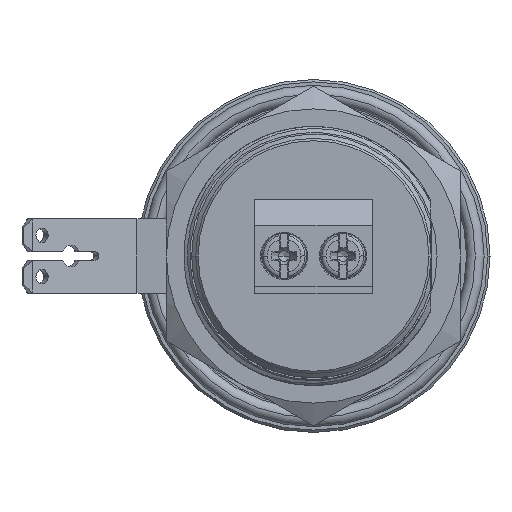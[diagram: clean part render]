
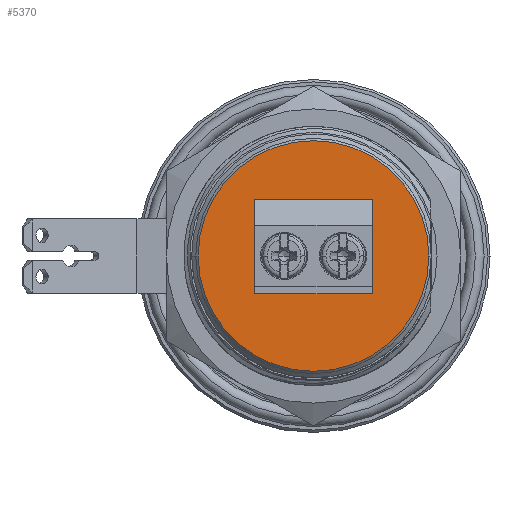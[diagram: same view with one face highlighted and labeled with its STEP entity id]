
A CAD part, front view. The second image highlights one B-rep face of the part: STEP entity #5370.
In plain terms, the highlighted planar face has unit normal (0, -1, 0).
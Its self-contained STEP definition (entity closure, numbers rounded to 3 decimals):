
#877=CARTESIAN_POINT('',(0.,-20.15,0.));
#878=DIRECTION('',(0.,1.,0.));
#879=DIRECTION('',(-1.,0.,0.));
#880=AXIS2_PLACEMENT_3D('',#877,#878,#879);
#882=CARTESIAN_POINT('',(0.,-20.15,0.));
#883=DIRECTION('',(0.,1.,0.));
#884=DIRECTION('',(1.,0.,0.));
#885=AXIS2_PLACEMENT_3D('',#882,#883,#884);
#887=CARTESIAN_POINT('',(0.,-20.15,0.));
#888=DIRECTION('',(0.,1.,0.));
#889=DIRECTION('',(0.,0.,-1.));
#890=AXIS2_PLACEMENT_3D('',#887,#888,#889);
#892=DIRECTION('',(-0.259,0.,0.966));
#893=VECTOR('',#892,0.58);
#894=CARTESIAN_POINT('',(2.15,-20.15,1.));
#895=LINE('',#894,#893);
#896=CARTESIAN_POINT('',(1.5,-20.15,4.3));
#897=DIRECTION('',(0.,-1.,0.));
#898=DIRECTION('',(1.,0.,0.));
#899=AXIS2_PLACEMENT_3D('',#896,#897,#898);
#901=CARTESIAN_POINT('',(-1.5,-20.15,4.3));
#902=DIRECTION('',(0.,-1.,0.));
#903=DIRECTION('',(0.,0.,1.));
#904=AXIS2_PLACEMENT_3D('',#901,#902,#903);
#906=DIRECTION('',(0.,0.,-1.));
#907=VECTOR('',#906,2.74);
#908=CARTESIAN_POINT('',(-2.,-20.15,4.3));
#909=LINE('',#908,#907);
#910=DIRECTION('',(-0.259,0.,-0.966));
#911=VECTOR('',#910,0.58);
#912=CARTESIAN_POINT('',(-2.,-20.15,1.56));
#913=LINE('',#912,#911);
#914=DIRECTION('',(-0.259,0.,0.966));
#915=VECTOR('',#914,0.58);
#916=CARTESIAN_POINT('',(-2.85,-20.15,1.));
#917=LINE('',#916,#915);
#918=CARTESIAN_POINT('',(-3.5,-20.15,4.3));
#919=DIRECTION('',(0.,-1.,0.));
#920=DIRECTION('',(1.,0.,0.));
#921=AXIS2_PLACEMENT_3D('',#918,#919,#920);
#923=CARTESIAN_POINT('',(3.5,-20.15,4.3));
#924=DIRECTION('',(0.,-1.,0.));
#925=DIRECTION('',(0.,0.,1.));
#926=AXIS2_PLACEMENT_3D('',#923,#924,#925);
#928=DIRECTION('',(-0.259,0.,-0.966));
#929=VECTOR('',#928,0.58);
#930=CARTESIAN_POINT('',(3.,-20.15,1.56));
#931=LINE('',#930,#929);
#2915=DIRECTION('',(1.,0.,0.));
#2916=VECTOR('',#2915,0.7);
#2917=CARTESIAN_POINT('',(2.15,-20.15,0.48));
#2918=LINE('',#2917,#2916);
#2919=DIRECTION('',(0.,0.,1.));
#2920=VECTOR('',#2919,0.52);
#2921=CARTESIAN_POINT('',(2.85,-20.15,0.48));
#2922=LINE('',#2921,#2920);
#3007=DIRECTION('',(0.,0.,-1.));
#3008=VECTOR('',#3007,0.52);
#3009=CARTESIAN_POINT('',(2.15,-20.15,1.));
#3010=LINE('',#3009,#3008);
#3019=DIRECTION('',(0.,0.,-1.));
#3020=VECTOR('',#3019,2.74);
#3021=CARTESIAN_POINT('',(2.,-20.15,4.3));
#3022=LINE('',#3021,#3020);
#3261=DIRECTION('',(0.,0.,1.));
#3262=VECTOR('',#3261,2.74);
#3263=CARTESIAN_POINT('',(3.,-20.15,1.56));
#3264=LINE('',#3263,#3262);
#3273=DIRECTION('',(1.,0.,0.));
#3274=VECTOR('',#3273,1.5);
#3275=CARTESIAN_POINT('',(3.5,-20.15,4.8));
#3276=LINE('',#3275,#3274);
#3277=DIRECTION('',(1.,0.,0.));
#3278=VECTOR('',#3277,1.5);
#3279=CARTESIAN_POINT('',(-5.,-20.15,4.8));
#3280=LINE('',#3279,#3278);
#3289=DIRECTION('',(1.,0.,0.));
#3290=VECTOR('',#3289,3.);
#3291=CARTESIAN_POINT('',(-1.5,-20.15,4.8));
#3292=LINE('',#3291,#3290);
#3297=DIRECTION('',(0.,0.,-1.));
#3298=VECTOR('',#3297,8.);
#3299=CARTESIAN_POINT('',(5.,-20.15,4.8));
#3300=LINE('',#3299,#3298);
#3309=DIRECTION('',(-1.,0.,0.));
#3310=VECTOR('',#3309,10.);
#3311=CARTESIAN_POINT('',(5.,-20.15,-3.2));
#3312=LINE('',#3311,#3310);
#3317=DIRECTION('',(0.,0.,1.));
#3318=VECTOR('',#3317,8.);
#3319=CARTESIAN_POINT('',(-5.,-20.15,-3.2));
#3320=LINE('',#3319,#3318);
#3569=DIRECTION('',(0.,0.,-1.));
#3570=VECTOR('',#3569,2.74);
#3571=CARTESIAN_POINT('',(-3.,-20.15,4.3));
#3572=LINE('',#3571,#3570);
#3585=DIRECTION('',(0.,0.,-1.));
#3586=VECTOR('',#3585,0.52);
#3587=CARTESIAN_POINT('',(-2.85,-20.15,1.));
#3588=LINE('',#3587,#3586);
#3637=DIRECTION('',(0.,0.,1.));
#3638=VECTOR('',#3637,0.52);
#3639=CARTESIAN_POINT('',(-2.15,-20.15,0.48));
#3640=LINE('',#3639,#3638);
#3685=DIRECTION('',(1.,0.,0.));
#3686=VECTOR('',#3685,0.7);
#3687=CARTESIAN_POINT('',(-2.85,-20.15,0.48));
#3688=LINE('',#3687,#3686);
#4429=CARTESIAN_POINT('',(-2.,-20.15,4.3));
#4430=CARTESIAN_POINT('',(-2.,-20.15,1.56));
#4431=VERTEX_POINT('',#4429);
#4432=VERTEX_POINT('',#4430);
#4435=CARTESIAN_POINT('',(-9.8,-20.15,0.));
#4436=CARTESIAN_POINT('',(9.8,-20.15,0.));
#4437=VERTEX_POINT('',#4435);
#4438=VERTEX_POINT('',#4436);
#4439=CARTESIAN_POINT('',(0.,-20.15,-9.8));
#4440=VERTEX_POINT('',#4439);
#4615=CARTESIAN_POINT('',(2.15,-20.15,0.48));
#4616=CARTESIAN_POINT('',(2.85,-20.15,0.48));
#4617=VERTEX_POINT('',#4615);
#4618=VERTEX_POINT('',#4616);
#4619=CARTESIAN_POINT('',(2.85,-20.15,1.));
#4620=VERTEX_POINT('',#4619);
#4627=CARTESIAN_POINT('',(3.,-20.15,1.56));
#4628=VERTEX_POINT('',#4627);
#4629=CARTESIAN_POINT('',(3.,-20.15,4.3));
#4630=VERTEX_POINT('',#4629);
#4637=CARTESIAN_POINT('',(3.5,-20.15,4.8));
#4638=VERTEX_POINT('',#4637);
#4641=CARTESIAN_POINT('',(5.,-20.15,4.8));
#4642=VERTEX_POINT('',#4641);
#4643=CARTESIAN_POINT('',(-5.,-20.15,4.8));
#4645=VERTEX_POINT('',#4643);
#4647=CARTESIAN_POINT('',(-3.5,-20.15,4.8));
#4648=VERTEX_POINT('',#4647);
#4653=CARTESIAN_POINT('',(-1.5,-20.15,4.8));
#4654=CARTESIAN_POINT('',(1.5,-20.15,4.8));
#4655=VERTEX_POINT('',#4653);
#4656=VERTEX_POINT('',#4654);
#4663=CARTESIAN_POINT('',(5.,-20.15,-3.2));
#4664=VERTEX_POINT('',#4663);
#4677=CARTESIAN_POINT('',(-5.,-20.15,-3.2));
#4678=VERTEX_POINT('',#4677);
#4737=CARTESIAN_POINT('',(-3.,-20.15,4.3));
#4738=VERTEX_POINT('',#4737);
#4739=CARTESIAN_POINT('',(-3.,-20.15,1.56));
#4740=VERTEX_POINT('',#4739);
#4743=CARTESIAN_POINT('',(-2.85,-20.15,1.));
#4744=VERTEX_POINT('',#4743);
#4745=CARTESIAN_POINT('',(-2.85,-20.15,0.48));
#4746=VERTEX_POINT('',#4745);
#4757=CARTESIAN_POINT('',(-2.15,-20.15,0.48));
#4758=VERTEX_POINT('',#4757);
#4759=CARTESIAN_POINT('',(-2.15,-20.15,1.));
#4760=VERTEX_POINT('',#4759);
#4851=CARTESIAN_POINT('',(2.,-20.15,4.3));
#4852=VERTEX_POINT('',#4851);
#4857=CARTESIAN_POINT('',(2.,-20.15,1.56));
#4858=VERTEX_POINT('',#4857);
#4863=CARTESIAN_POINT('',(2.15,-20.15,1.));
#4864=VERTEX_POINT('',#4863);
#5308=CARTESIAN_POINT('',(0.,-20.15,0.));
#5309=DIRECTION('',(0.,1.,0.));
#5310=DIRECTION('',(1.,0.,0.));
#5311=AXIS2_PLACEMENT_3D('',#5308,#5309,#5310);
#5312=PLANE('',#5311);
#5314=ORIENTED_EDGE('',*,*,#5313,.T.);
#5316=ORIENTED_EDGE('',*,*,#5315,.T.);
#5318=ORIENTED_EDGE('',*,*,#5317,.T.);
#5319=EDGE_LOOP('',(#5314,#5316,#5318));
#5320=FACE_OUTER_BOUND('',#5319,.F.);
#5322=ORIENTED_EDGE('',*,*,#5321,.F.);
#5324=ORIENTED_EDGE('',*,*,#5323,.F.);
#5326=ORIENTED_EDGE('',*,*,#5325,.T.);
#5328=ORIENTED_EDGE('',*,*,#5327,.F.);
#5330=ORIENTED_EDGE('',*,*,#5329,.T.);
#5332=ORIENTED_EDGE('',*,*,#5331,.F.);
#5334=ORIENTED_EDGE('',*,*,#5333,.T.);
#5335=ORIENTED_EDGE('',*,*,#5296,.T.);
#5337=ORIENTED_EDGE('',*,*,#5336,.T.);
#5339=ORIENTED_EDGE('',*,*,#5338,.F.);
#5341=ORIENTED_EDGE('',*,*,#5340,.F.);
#5343=ORIENTED_EDGE('',*,*,#5342,.F.);
#5345=ORIENTED_EDGE('',*,*,#5344,.T.);
#5347=ORIENTED_EDGE('',*,*,#5346,.F.);
#5349=ORIENTED_EDGE('',*,*,#5348,.T.);
#5351=ORIENTED_EDGE('',*,*,#5350,.F.);
#5353=ORIENTED_EDGE('',*,*,#5352,.F.);
#5355=ORIENTED_EDGE('',*,*,#5354,.F.);
#5357=ORIENTED_EDGE('',*,*,#5356,.F.);
#5359=ORIENTED_EDGE('',*,*,#5358,.F.);
#5361=ORIENTED_EDGE('',*,*,#5360,.T.);
#5363=ORIENTED_EDGE('',*,*,#5362,.F.);
#5365=ORIENTED_EDGE('',*,*,#5364,.T.);
#5367=ORIENTED_EDGE('',*,*,#5366,.F.);
#5368=EDGE_LOOP('',(#5322,#5324,#5326,#5328,#5330,#5332,#5334,#5335,#5337,#5339,
#5341,#5343,#5345,#5347,#5349,#5351,#5353,#5355,#5357,#5359,#5361,#5363,#5365,
#5367));
#5369=FACE_BOUND('',#5368,.F.);
#5370=ADVANCED_FACE('',(#5320,#5369),#5312,.F.);
#881=CIRCLE('',#880,9.8);
#886=CIRCLE('',#885,9.8);
#891=CIRCLE('',#890,9.8);
#900=CIRCLE('',#899,0.5);
#905=CIRCLE('',#904,0.5);
#922=CIRCLE('',#921,0.5);
#927=CIRCLE('',#926,0.5);
#5296=EDGE_CURVE('',#4431,#4432,#909,.T.);
#5313=EDGE_CURVE('',#4437,#4438,#881,.T.);
#5315=EDGE_CURVE('',#4438,#4440,#886,.T.);
#5317=EDGE_CURVE('',#4440,#4437,#891,.T.);
#5321=EDGE_CURVE('',#4617,#4618,#2918,.T.);
#5323=EDGE_CURVE('',#4864,#4617,#3010,.T.);
#5325=EDGE_CURVE('',#4864,#4858,#895,.T.);
#5327=EDGE_CURVE('',#4852,#4858,#3022,.T.);
#5329=EDGE_CURVE('',#4852,#4656,#900,.T.);
#5331=EDGE_CURVE('',#4655,#4656,#3292,.T.);
#5333=EDGE_CURVE('',#4655,#4431,#905,.T.);
#5336=EDGE_CURVE('',#4432,#4760,#913,.T.);
#5338=EDGE_CURVE('',#4758,#4760,#3640,.T.);
#5340=EDGE_CURVE('',#4746,#4758,#3688,.T.);
#5342=EDGE_CURVE('',#4744,#4746,#3588,.T.);
#5344=EDGE_CURVE('',#4744,#4740,#917,.T.);
#5346=EDGE_CURVE('',#4738,#4740,#3572,.T.);
#5348=EDGE_CURVE('',#4738,#4648,#922,.T.);
#5350=EDGE_CURVE('',#4645,#4648,#3280,.T.);
#5352=EDGE_CURVE('',#4678,#4645,#3320,.T.);
#5354=EDGE_CURVE('',#4664,#4678,#3312,.T.);
#5356=EDGE_CURVE('',#4642,#4664,#3300,.T.);
#5358=EDGE_CURVE('',#4638,#4642,#3276,.T.);
#5360=EDGE_CURVE('',#4638,#4630,#927,.T.);
#5362=EDGE_CURVE('',#4628,#4630,#3264,.T.);
#5364=EDGE_CURVE('',#4628,#4620,#931,.T.);
#5366=EDGE_CURVE('',#4618,#4620,#2922,.T.);
